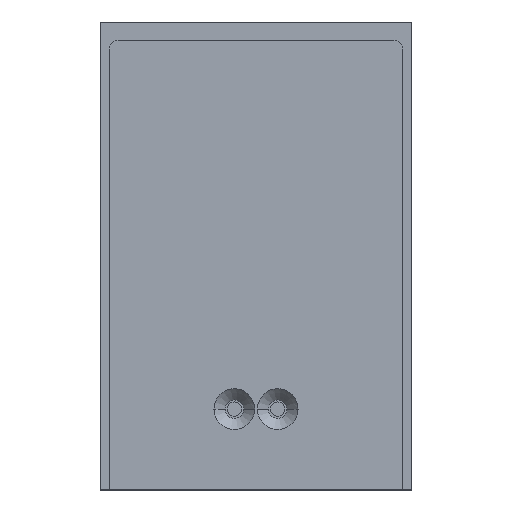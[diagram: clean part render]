
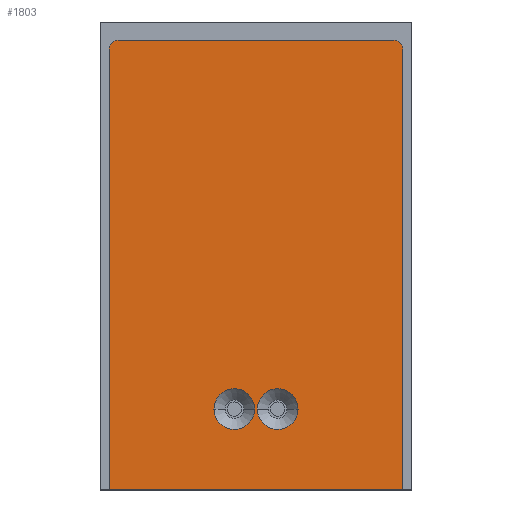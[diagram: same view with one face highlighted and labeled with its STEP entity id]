
A CAD part, front view. The second image highlights one B-rep face of the part: STEP entity #1803.
In plain terms, the highlighted planar face has unit normal (0, -1, 0) as drawn and (0, 1, 0) by its records, which use the part's own axes.
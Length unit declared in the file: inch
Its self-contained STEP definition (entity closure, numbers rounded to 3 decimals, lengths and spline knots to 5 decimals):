
#6 = VERTEX_POINT ( 'NONE', #1007 ) ;
#32 = VERTEX_POINT ( 'NONE', #78 ) ;
#45 = ORIENTED_EDGE ( 'NONE', *, *, #399, .F. ) ;
#77 = VECTOR ( 'NONE', #1870, 39.37008 ) ;
#78 = CARTESIAN_POINT ( 'NONE',  ( 2.0875, 0.25, -0.57283 ) ) ;
#82 = EDGE_CURVE ( 'NONE', #509, #111, #787, .T. ) ;
#88 = FACE_BOUND ( 'NONE', #319, .T. ) ;
#105 = CARTESIAN_POINT ( 'NONE',  ( 2.0875, 0.25, -0.29528 ) ) ;
#111 = VERTEX_POINT ( 'NONE', #1041 ) ;
#170 = CARTESIAN_POINT ( 'NONE',  ( -2.9375, 0.25, -2. ) ) ;
#181 = AXIS2_PLACEMENT_3D ( 'NONE', #806, #955, #1254 ) ;
#234 = LINE ( 'NONE', #170, #753 ) ;
#250 = CARTESIAN_POINT ( 'NONE',  ( -2.9375, 0.25, 2. ) ) ;
#257 = DIRECTION ( 'NONE',  ( 0., 0., 1. ) ) ;
#305 = CARTESIAN_POINT ( 'NONE',  ( 2.0875, 0.25, -0.01772 ) ) ;
#308 = CIRCLE ( 'NONE', #1111, 0.125 ) ;
#316 = AXIS2_PLACEMENT_3D ( 'NONE', #250, #535, #849 ) ;
#319 = EDGE_LOOP ( 'NONE', ( #1888, #1250 ) ) ;
#331 = AXIS2_PLACEMENT_3D ( 'NONE', #1913, #411, #1338 ) ;
#338 = EDGE_CURVE ( 'NONE', #564, #791, #1828, .T. ) ;
#349 = VERTEX_POINT ( 'NONE', #305 ) ;
#399 = EDGE_CURVE ( 'NONE', #349, #32, #1416, .T. ) ;
#411 = DIRECTION ( 'NONE',  ( 0., 1., 0. ) ) ;
#507 = ORIENTED_EDGE ( 'NONE', *, *, #1018, .T. ) ;
#509 = VERTEX_POINT ( 'NONE', #1722 ) ;
#528 = ORIENTED_EDGE ( 'NONE', *, *, #1464, .T. ) ;
#535 = DIRECTION ( 'NONE',  ( 0., 1., 0. ) ) ;
#550 = VERTEX_POINT ( 'NONE', #1596 ) ;
#564 = VERTEX_POINT ( 'NONE', #989 ) ;
#568 = ORIENTED_EDGE ( 'NONE', *, *, #1165, .T. ) ;
#678 = CARTESIAN_POINT ( 'NONE',  ( 3.1875, 0.25, -2. ) ) ;
#684 = LINE ( 'NONE', #678, #1126 ) ;
#686 = DIRECTION ( 'NONE',  ( 0., 1., 0. ) ) ;
#691 = EDGE_CURVE ( 'NONE', #791, #564, #834, .T. ) ;
#726 = CARTESIAN_POINT ( 'NONE',  ( -2.9375, 0.25, 1.875 ) ) ;
#753 = VECTOR ( 'NONE', #1689, 39.37008 ) ;
#765 = CARTESIAN_POINT ( 'NONE',  ( 2.0875, 0.25, 0.29528 ) ) ;
#787 = CIRCLE ( 'NONE', #1167, 0.125 ) ;
#791 = VERTEX_POINT ( 'NONE', #1950 ) ;
#806 = CARTESIAN_POINT ( 'NONE',  ( 2.0875, 0.25, -0.29528 ) ) ;
#834 = CIRCLE ( 'NONE', #331, 0.27756 ) ;
#846 = VERTEX_POINT ( 'NONE', #1063 ) ;
#849 = DIRECTION ( 'NONE',  ( 0., 0., 1. ) ) ;
#936 = FACE_BOUND ( 'NONE', #1772, .T. ) ;
#955 = DIRECTION ( 'NONE',  ( 0., 1., 0. ) ) ;
#989 = CARTESIAN_POINT ( 'NONE',  ( 2.0875, 0.25, 0.57283 ) ) ;
#1007 = CARTESIAN_POINT ( 'NONE',  ( 3.1875, 0.25, -2. ) ) ;
#1018 = EDGE_CURVE ( 'NONE', #111, #1256, #1898, .T. ) ;
#1019 = ORIENTED_EDGE ( 'NONE', *, *, #1886, .F. ) ;
#1041 = CARTESIAN_POINT ( 'NONE',  ( -2.9375, 0.25, -1.875 ) ) ;
#1042 = DIRECTION ( 'NONE',  ( 0., 1., 0. ) ) ;
#1056 = CARTESIAN_POINT ( 'NONE',  ( -2.8125, 0.25, 1.875 ) ) ;
#1063 = CARTESIAN_POINT ( 'NONE',  ( -2.8125, 0.25, 2. ) ) ;
#1079 = DIRECTION ( 'NONE',  ( 0., 0., 1. ) ) ;
#1111 = AXIS2_PLACEMENT_3D ( 'NONE', #1056, #1042, #1944 ) ;
#1124 = CIRCLE ( 'NONE', #1594, 0.27756 ) ;
#1126 = VECTOR ( 'NONE', #1914, 39.37008 ) ;
#1152 = PLANE ( 'NONE',  #316 ) ;
#1165 = EDGE_CURVE ( 'NONE', #550, #6, #684, .T. ) ;
#1167 = AXIS2_PLACEMENT_3D ( 'NONE', #1454, #686, #1180 ) ;
#1180 = DIRECTION ( 'NONE',  ( 0., 0., 1. ) ) ;
#1227 = EDGE_CURVE ( 'NONE', #1256, #846, #308, .T. ) ;
#1250 = ORIENTED_EDGE ( 'NONE', *, *, #691, .F. ) ;
#1254 = DIRECTION ( 'NONE',  ( 0., 0., 1. ) ) ;
#1256 = VERTEX_POINT ( 'NONE', #726 ) ;
#1264 = FACE_OUTER_BOUND ( 'NONE', #1775, .T. ) ;
#1312 = ORIENTED_EDGE ( 'NONE', *, *, #82, .T. ) ;
#1331 = DIRECTION ( 'NONE',  ( 0., 1., 0. ) ) ;
#1338 = DIRECTION ( 'NONE',  ( 0., 0., 1. ) ) ;
#1385 = VECTOR ( 'NONE', #1686, 39.37008 ) ;
#1416 = CIRCLE ( 'NONE', #181, 0.27756 ) ;
#1430 = EDGE_CURVE ( 'NONE', #846, #550, #1774, .T. ) ;
#1454 = CARTESIAN_POINT ( 'NONE',  ( -2.8125, 0.25, -1.875 ) ) ;
#1464 = EDGE_CURVE ( 'NONE', #6, #509, #234, .T. ) ;
#1529 = ORIENTED_EDGE ( 'NONE', *, *, #1430, .T. ) ;
#1565 = AXIS2_PLACEMENT_3D ( 'NONE', #765, #1824, #1079 ) ;
#1585 = CARTESIAN_POINT ( 'NONE',  ( -2.9375, 0.25, -2. ) ) ;
#1594 = AXIS2_PLACEMENT_3D ( 'NONE', #105, #1331, #257 ) ;
#1596 = CARTESIAN_POINT ( 'NONE',  ( 3.1875, 0.25, 2. ) ) ;
#1674 = CARTESIAN_POINT ( 'NONE',  ( -2.9375, 0.25, 2. ) ) ;
#1686 = DIRECTION ( 'NONE',  ( 1., 0., 0. ) ) ;
#1689 = DIRECTION ( 'NONE',  ( -1., 0., 0. ) ) ;
#1722 = CARTESIAN_POINT ( 'NONE',  ( -2.8125, 0.25, -2. ) ) ;
#1772 = EDGE_LOOP ( 'NONE', ( #45, #1019 ) ) ;
#1774 = LINE ( 'NONE', #1674, #1385 ) ;
#1775 = EDGE_LOOP ( 'NONE', ( #507, #1820, #1529, #568, #528, #1312 ) ) ;
#1803 = ADVANCED_FACE ( 'NONE', ( #88, #936, #1264 ), #1152, .T. ) ;
#1820 = ORIENTED_EDGE ( 'NONE', *, *, #1227, .T. ) ;
#1824 = DIRECTION ( 'NONE',  ( 0., 1., 0. ) ) ;
#1828 = CIRCLE ( 'NONE', #1565, 0.27756 ) ;
#1870 = DIRECTION ( 'NONE',  ( 0., 0., 1. ) ) ;
#1886 = EDGE_CURVE ( 'NONE', #32, #349, #1124, .T. ) ;
#1888 = ORIENTED_EDGE ( 'NONE', *, *, #338, .F. ) ;
#1898 = LINE ( 'NONE', #1585, #77 ) ;
#1913 = CARTESIAN_POINT ( 'NONE',  ( 2.0875, 0.25, 0.29528 ) ) ;
#1914 = DIRECTION ( 'NONE',  ( 0., 0., -1. ) ) ;
#1944 = DIRECTION ( 'NONE',  ( 0., 0., 1. ) ) ;
#1950 = CARTESIAN_POINT ( 'NONE',  ( 2.0875, 0.25, 0.01772 ) ) ;
